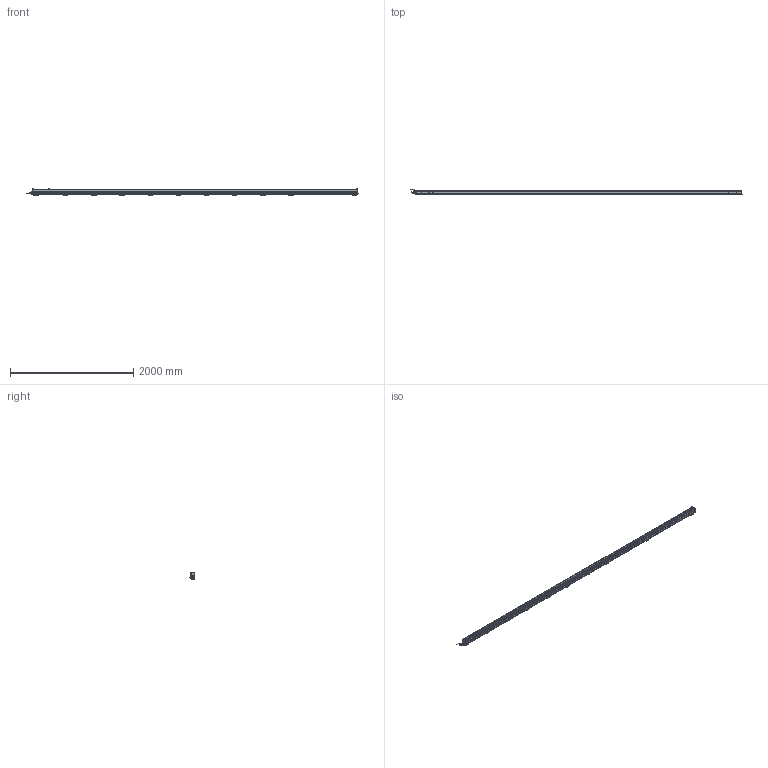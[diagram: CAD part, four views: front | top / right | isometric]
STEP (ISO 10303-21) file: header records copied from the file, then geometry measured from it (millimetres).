
FILE_DESCRIPTION(/* description */ (''),/* implementation_level */ '2;1');
FILE_NAME(/* name */ 'THUNDERION2_3D_5125-5320',/* time_stamp */ '2017-09-28T12:49:54+02:00',/* author */ (''),/* organization */ (''),/* preprocessor_version */ 'ST-DEVELOPER v15.7',/* originating_system */ 'HiCAD 2015 2002.1 Build 408',/* authorisation */ '');
FILE_SCHEMA (('AUTOMOTIVE_DESIGN { 1 0 10303 214 1 1 1 1 }'));
Products named in the file (163): Root; -_ThunderION 5125/5320; -_Side profile; -_Bar; -_Connector straight; EXTRUDED SOLID_0; -_Cord; REVOLVED SOLID_1; REVOLVED SOLID_3; DIN 13-M12x1,5; -_Connector angled; REVOLVED SOLID_2; 4532000100_Mounting bracket bars; -_Side piece; -_Slide piece; -_Bracket small; DIN 13-M3; DIN 76-M3; -_Cable End; light pipe M; light pipe L; -_Cap CE; -_Stud M4; -_Connector M12 male 5 pole_1; -_Contacts; ABSR_1_2_1_1_Inner part; ABSR_1_2_1_2_Inner part; bus; Pg 9; -_Ring tongue terminal; 9230000020_Nut M4; GEWINDE; 9240100020_Spring washer M4; ISO 7051-ST3.5x9.5-C-H_Tapping screws_0; -_Fill; -_Dead end; -_Cap DE; -_Emitter; -_Support Side Profile; -_End Plate
Assembly tree (162 placements, depth 6):
  Root
    -_ThunderION 5125/5320
      -_Side profile
      -_Side profile
      -_Bar
      -_Connector straight
        EXTRUDED SOLID_0
        -_Cord
        REVOLVED SOLID_1
        REVOLVED SOLID_3
          DIN 13-M12x1,5
      -_Connector angled
        REVOLVED SOLID_1
        EXTRUDED SOLID_0
        -_Cord
        REVOLVED SOLID_2
        REVOLVED SOLID_3
          DIN 13-M12x1,5
      4532000100_Mounting bracket bars
        -_Side piece
        -_Side piece
        -_Slide piece
        -_Bracket small
          DIN 13-M3
          DIN 13-M3
          DIN 76-M3
          DIN 76-M3
      4532000100_Mounting bracket bars
        -_Side piece
        -_Side piece
        -_Slide piece
        -_Bracket small
          DIN 13-M3
          DIN 13-M3
          DIN 76-M3
          DIN 76-M3
      4532000100_Mounting bracket bars
        -_Side piece
        -_Side piece
        -_Slide piece
        -_Bracket small
          DIN 13-M3
          DIN 13-M3
          DIN 76-M3
          DIN 76-M3
      4532000100_Mounting bracket bars
        -_Side piece
        -_Side piece
        -_Slide piece
        -_Bracket small
          DIN 13-M3
          DIN 13-M3
          DIN 76-M3
          DIN 76-M3
      4532000100_Mounting bracket bars
        -_Side piece
        -_Side piece
        -_Slide piece
        -_Bracket small
          DIN 13-M3
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Bounding box: 5398.34 x 92.25 x 113 mm (x, y, z)
Volume: 16777591 mm3; surface area: 3808813.2 mm2
Topology: 149 solids, 182 shells, 8726 faces, 22171 edges, 13299 vertices
Faces by surface type: cylinder 3630, plane 3484, torus 499, bspline 472, sphere 448, cone 193
Full cylindrical faces by diameter (mm): 0.8 x10, 1 x10, 2.387 x44, 2.5 x1, 2.64 x16, 3 x88, 3.141 x2, 3.5 x8, 4 x26, 4.2 x3, 4.4 x1, 5 x4, 5.5 x55, 7.3 x8, 8 x2, 8.4 x2, 9 x6, 9.6 x1, 10 x2, 10.16 x1, 10.5 x2, 11 x4, 12 x5, 12.8 x1, 13.8 x4, 13.86 x1, 14.5 x3, 15.199 x1, 15.2 x1
Entity records: 499596 total; most frequent: CARTESIAN_POINT 126693, DIRECTION 43273, PRESENTATION_STYLE_ASSIGNMENT 42100, OVER_RIDING_STYLED_ITEM 41955, DRAUGHTING_PRE_DEFINED_CURVE_FONT 41888, CURVE_STYLE 41888, ORIENTED_EDGE 41888, EDGE_CURVE 20944
